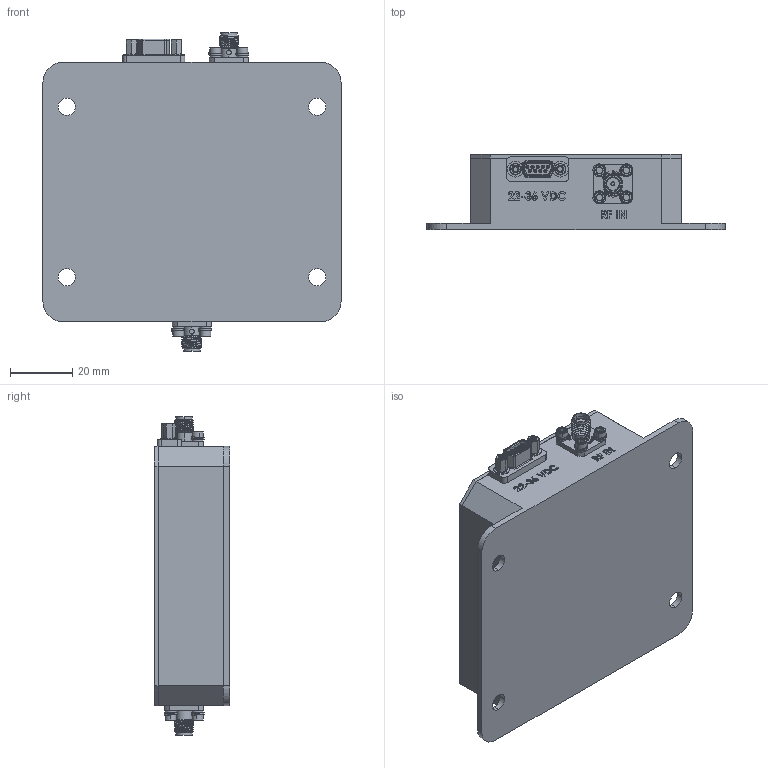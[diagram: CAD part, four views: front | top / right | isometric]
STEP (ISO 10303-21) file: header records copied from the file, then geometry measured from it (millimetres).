
FILE_DESCRIPTION (( 'STEP AP214' ), '1' );
FILE_NAME ('HILNA-GPS-C034.STEP', '2025-03-31T13:30:48', ( '' ), ( '' ), 'SwSTEP 2.0', 'SolidWorks 2021', '' );
FILE_SCHEMA (( 'AUTOMOTIVE_DESIGN' ));
Length unit declared in the file: inch
Products named in the file (12): 92196A076_92196A076; SCREW STACK UP 2-56 x .188 long; A6002-4200; 901-9184-ccsf_rev-a; MDM JACK POST_91075A512; 92146A520_92146A520; A6002-4100; flat head 100 screw_ai_CR-FHM1 0.06-80x0.125x0.125-N; 90945A705_MIL SPEC. 300 SERIES SS FLAT WASHER_90945A705; HILNA-GPS-C034; MDM-9P; MDM JACK POST LOCK_98449A500
Assembly tree (41 placements, depth 3):
  HILNA-GPS-C034
    A6002-4100
    901-9184-ccsf_rev-a  x2
    MDM-9P
    MDM JACK POST_91075A512  x2
    MDM JACK POST LOCK_98449A500  x2
    SCREW STACK UP 2-56 x .188 long  x8
      92196A076_92196A076
      92146A520_92146A520
      90945A705_MIL SPEC. 300 SERIES SS FLAT WASHER_90945A705
    A6002-4200
    flat head 100 screw_ai_CR-FHM1 0.06-80x0.125x0.125-N  x21
Bounding box: 95.5 x 24.13 x 102.11 mm (x, y, z)
Volume: 57529.1 mm3; surface area: 45200.5 mm2
Topology: 52 solids, 72 shells, 2228 faces, 6282 edges, 4252 vertices
Faces by surface type: cylinder 960, plane 750, cone 306, bspline 181, torus 31
Entity records: 51122 total; most frequent: CARTESIAN_POINT 20707, ORIENTED_EDGE 5311, DIRECTION 4371, EDGE_CURVE 2821, VERTEX_POINT 1968, AXIS2_PLACEMENT_3D 1532, VECTOR 1307, LINE 1307
